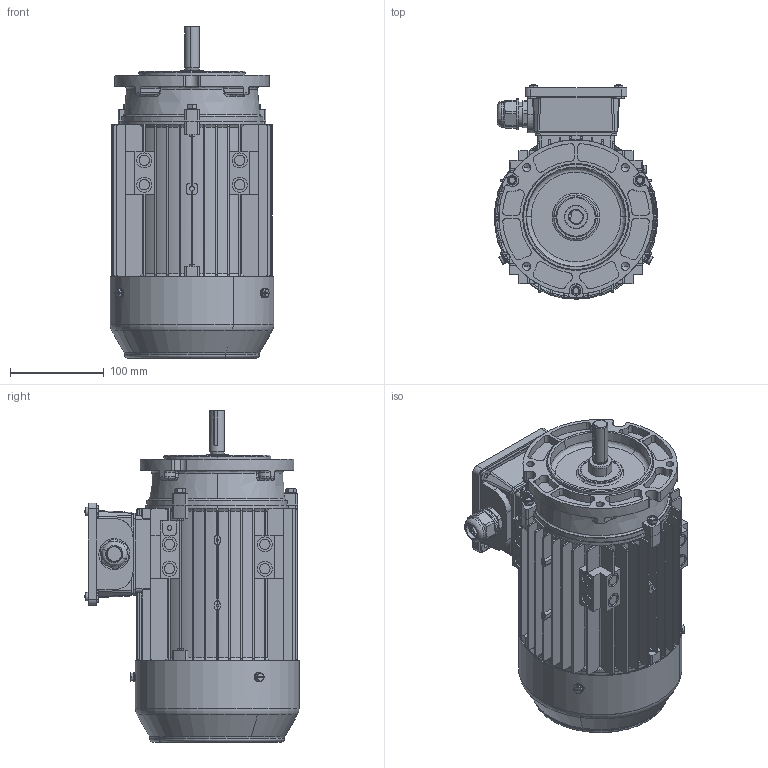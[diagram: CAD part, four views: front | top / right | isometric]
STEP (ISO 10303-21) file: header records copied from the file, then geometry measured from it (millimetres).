
FILE_DESCRIPTION (( 'STEP AP214' ), '1' );
FILE_NAME ('JDNSS-56C.STEP', '2026-01-15T02:51:05', ( '' ), ( '' ), 'SwSTEP 2.0', 'SolidWorks 2011', '' );
FILE_SCHEMA (( 'AUTOMOTIVE_DESIGN' ));
Length unit declared in the file: millimetre
Products named in the file (10): JL-90瑞欶; ﾖ甄LN3-56C; 蹟譫蹟杶ㄗM25ㄘ; 蹟譫蹟杶砎蝶ㄗM25); JDNSS-56C; JL3-90L-B14A; JLN3-56C傷裔; 蹟譫蹟杶囀ㄗM25ㄘ; 錨璃6^JLN3-56C軞蚾; 蹟譫蹟杶俋ㄗM25ㄘ
Assembly tree (9 placements, depth 3):
  JDNSS-56C
    ﾖ甄LN3-56C
    JL3-90L-B14A
    JLN3-56C傷裔
    蹟譫蹟杶ㄗM25ㄘ
      蹟譫蹟杶砎蝶ㄗM25)
      蹟譫蹟杶囀ㄗM25ㄘ
      蹟譫蹟杶俋ㄗM25ㄘ
    JL-90瑞欶
    錨璃6^JLN3-56C軞蚾
Bounding box: 175 x 228.92 x 355 mm (x, y, z)
Volume: 1310998.2 mm3; surface area: 800018.1 mm2
Topology: 41 solids, 41 shells, 3353 faces, 9123 edges, 5906 vertices
Faces by surface type: plane 1456, cylinder 1262, cone 313, bspline 166, torus 156
Entity records: 121764 total; most frequent: CARTESIAN_POINT 35950, ORIENTED_EDGE 18230, DIRECTION 17632, EDGE_CURVE 9115, AXIS2_PLACEMENT_3D 6546, VERTEX_POINT 5906, LINE 4540, VECTOR 4540
